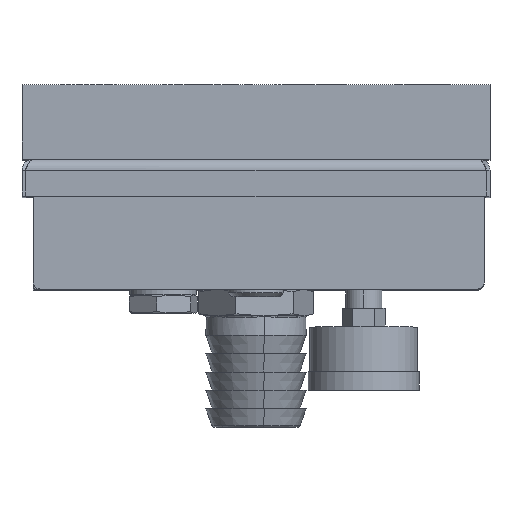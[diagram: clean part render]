
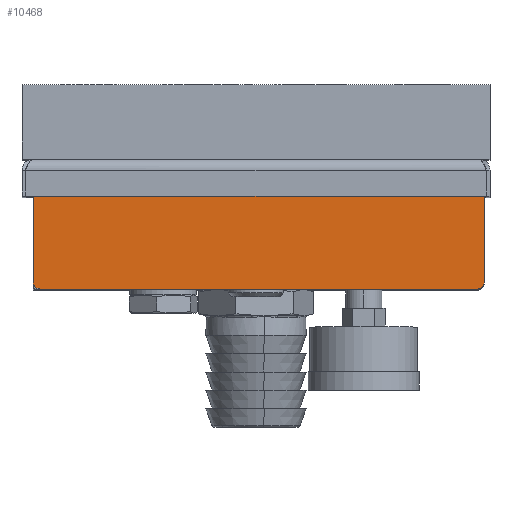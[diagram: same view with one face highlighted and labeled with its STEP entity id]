
A CAD part, top view. The second image highlights one B-rep face of the part: STEP entity #10468.
In plain terms, the highlighted planar face has unit normal (0, 0, 1).
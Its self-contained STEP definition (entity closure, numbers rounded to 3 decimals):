
#252 = AXIS2_PLACEMENT_3D ( 'NONE', #8449, #8447, #8446 ) ;
#254 = AXIS2_PLACEMENT_3D ( 'NONE', #7324, #8138, #7307 ) ;
#257 = AXIS2_PLACEMENT_3D ( 'NONE', #7728, #7799, #7776 ) ;
#553 = VERTEX_POINT ( 'NONE', #5242 ) ;
#728 = VERTEX_POINT ( 'NONE', #13450 ) ;
#797 = VERTEX_POINT ( 'NONE', #13320 ) ;
#826 = VERTEX_POINT ( 'NONE', #14673 ) ;
#892 = VERTEX_POINT ( 'NONE', #14448 ) ;
#971 = VERTEX_POINT ( 'NONE', #14582 ) ;
#1014 = VERTEX_POINT ( 'NONE', #14623 ) ;
#1113 = VERTEX_POINT ( 'NONE', #14132 ) ;
#1431 = EDGE_CURVE ( 'NONE', #1113, #826, #7712, .T. ) ;
#1586 = AXIS2_PLACEMENT_3D ( 'NONE', #14745, #14089, #14090 ) ;
#3829 = AXIS2_PLACEMENT_3D ( 'NONE', #8944, #8941, #8935 ) ;
#5242 = CARTESIAN_POINT ( 'NONE',  ( 61.5, -13., 101. ) ) ;
#7307 = DIRECTION ( 'NONE',  ( 1., 0., 0. ) ) ;
#7324 = CARTESIAN_POINT ( 'NONE',  ( 59.5, -13., 101. ) ) ;
#7612 = CARTESIAN_POINT ( 'NONE',  ( 61.5, -15., 101. ) ) ;
#7631 = DIRECTION ( 'NONE',  ( 0., 1., 0. ) ) ;
#7712 = CIRCLE ( 'NONE', #1586, 2. ) ;
#7728 = CARTESIAN_POINT ( 'NONE',  ( 59.5, 13., 101. ) ) ;
#7776 = DIRECTION ( 'NONE',  ( 1., 0., 0. ) ) ;
#7799 = DIRECTION ( 'NONE',  ( 0., 0., -1. ) ) ;
#7933 = DIRECTION ( 'NONE',  ( 0., -1., 0. ) ) ;
#7949 = DIRECTION ( 'NONE',  ( -1., 0., 0. ) ) ;
#7969 = CARTESIAN_POINT ( 'NONE',  ( 61.5, 15., 101. ) ) ;
#8021 = CARTESIAN_POINT ( 'NONE',  ( -60., -15., 101. ) ) ;
#8138 = DIRECTION ( 'NONE',  ( 0., 0., -1. ) ) ;
#8439 = DIRECTION ( 'NONE',  ( 1., 0., 0. ) ) ;
#8440 = CARTESIAN_POINT ( 'NONE',  ( 61.5, -15., 101. ) ) ;
#8446 = DIRECTION ( 'NONE',  ( 1., 0., 0. ) ) ;
#8447 = DIRECTION ( 'NONE',  ( 0., 0., -1. ) ) ;
#8449 = CARTESIAN_POINT ( 'NONE',  ( -58., -13., 101. ) ) ;
#8935 = DIRECTION ( 'NONE',  ( 1., 0., 0. ) ) ;
#8941 = DIRECTION ( 'NONE',  ( 0., 0., 1. ) ) ;
#8944 = CARTESIAN_POINT ( 'NONE',  ( 61.5, 15., 101. ) ) ;
#8947 = PLANE ( 'NONE',  #3829 ) ;
#9380 = EDGE_LOOP ( 'NONE', ( #12597, #12726, #12563, #12659, #12357, #12881, #12463, #12361 ) ) ;
#10468 = ADVANCED_FACE ( 'NONE', ( #10865 ), #8947, .T. ) ;
#10865 = FACE_OUTER_BOUND ( 'NONE', #9380, .T. ) ;
#12357 = ORIENTED_EDGE ( 'NONE', *, *, #14790, .T. ) ;
#12361 = ORIENTED_EDGE ( 'NONE', *, *, #14802, .F. ) ;
#12463 = ORIENTED_EDGE ( 'NONE', *, *, #14809, .T. ) ;
#12563 = ORIENTED_EDGE ( 'NONE', *, *, #14789, .T. ) ;
#12597 = ORIENTED_EDGE ( 'NONE', *, *, #14797, .T. ) ;
#12659 = ORIENTED_EDGE ( 'NONE', *, *, #1431, .F. ) ;
#12726 = ORIENTED_EDGE ( 'NONE', *, *, #14792, .F. ) ;
#12881 = ORIENTED_EDGE ( 'NONE', *, *, #14805, .F. ) ;
#13320 = CARTESIAN_POINT ( 'NONE',  ( -60., -13., 101. ) ) ;
#13450 = CARTESIAN_POINT ( 'NONE',  ( 59.5, 15., 101. ) ) ;
#13840 = VECTOR ( 'NONE', #8439, 1000. ) ;
#13855 = LINE ( 'NONE', #8440, #13840 ) ;
#13875 = CIRCLE ( 'NONE', #252, 2. ) ;
#13907 = CIRCLE ( 'NONE', #254, 2. ) ;
#13909 = VECTOR ( 'NONE', #7631, 1000. ) ;
#13927 = LINE ( 'NONE', #7612, #13909 ) ;
#13954 = CIRCLE ( 'NONE', #257, 2. ) ;
#13957 = VECTOR ( 'NONE', #7949, 1000. ) ;
#13965 = VECTOR ( 'NONE', #7933, 1000. ) ;
#13969 = LINE ( 'NONE', #7969, #13957 ) ;
#13985 = LINE ( 'NONE', #8021, #13965 ) ;
#14089 = DIRECTION ( 'NONE',  ( 0., 0., -1. ) ) ;
#14090 = DIRECTION ( 'NONE',  ( 1., 0., 0. ) ) ;
#14132 = CARTESIAN_POINT ( 'NONE',  ( -60., 13., 101. ) ) ;
#14448 = CARTESIAN_POINT ( 'NONE',  ( 59.5, -15., 101. ) ) ;
#14582 = CARTESIAN_POINT ( 'NONE',  ( 61.5, 13., 101. ) ) ;
#14623 = CARTESIAN_POINT ( 'NONE',  ( -58., -15., 101. ) ) ;
#14673 = CARTESIAN_POINT ( 'NONE',  ( -58., 15., 101. ) ) ;
#14745 = CARTESIAN_POINT ( 'NONE',  ( -58., 13., 101. ) ) ;
#14789 = EDGE_CURVE ( 'NONE', #728, #826, #13969, .T. ) ;
#14790 = EDGE_CURVE ( 'NONE', #1113, #797, #13985, .T. ) ;
#14792 = EDGE_CURVE ( 'NONE', #728, #971, #13954, .T. ) ;
#14797 = EDGE_CURVE ( 'NONE', #553, #971, #13927, .T. ) ;
#14802 = EDGE_CURVE ( 'NONE', #553, #892, #13907, .T. ) ;
#14805 = EDGE_CURVE ( 'NONE', #1014, #797, #13875, .T. ) ;
#14809 = EDGE_CURVE ( 'NONE', #1014, #892, #13855, .T. ) ;
